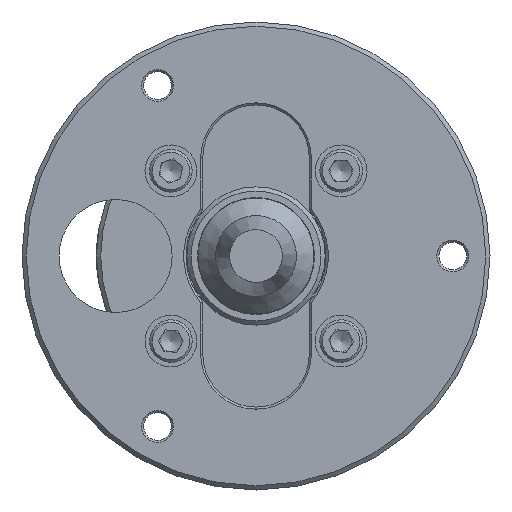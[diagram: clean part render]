
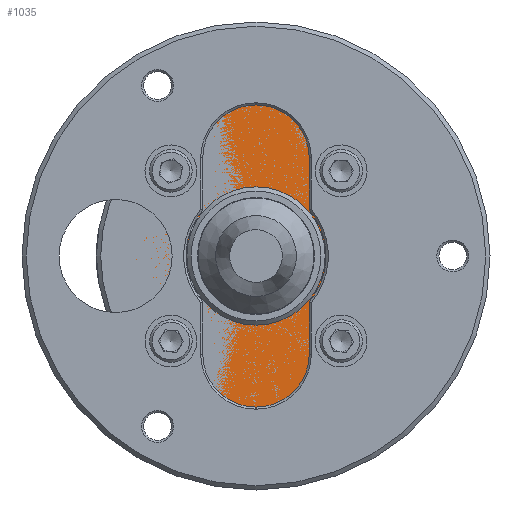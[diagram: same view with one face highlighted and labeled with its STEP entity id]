
A CAD part, front view. The second image highlights one B-rep face of the part: STEP entity #1035.
In plain terms, the highlighted planar face has unit normal (0, -1, 0).
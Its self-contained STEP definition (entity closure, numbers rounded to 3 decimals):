
#1 = CIRCLE ( 'NONE', #4469, 5. ) ;
#177 = EDGE_LOOP ( 'NONE', ( #3818 ) ) ;
#414 = EDGE_CURVE ( 'NONE', #4598, #4598, #3952, .T. ) ;
#735 = FACE_OUTER_BOUND ( 'NONE', #177, .T. ) ;
#811 = CARTESIAN_POINT ( 'NONE',  ( 15., -113., 20. ) ) ;
#1035 = ADVANCED_FACE ( 'NONE', ( #4105, #5565, #2426, #5762, #735, #3896 ), #2520, .F. ) ;
#1235 = AXIS2_PLACEMENT_3D ( 'NONE', #6175, #2407, #6797 ) ;
#1252 = CARTESIAN_POINT ( 'NONE',  ( -25., -113., 20. ) ) ;
#1262 = ORIENTED_EDGE ( 'NONE', *, *, #6755, .T. ) ;
#1718 = CARTESIAN_POINT ( 'NONE',  ( -20., -113., 20. ) ) ;
#1900 = DIRECTION ( 'NONE',  ( 0., 1., 0. ) ) ;
#2122 = AXIS2_PLACEMENT_3D ( 'NONE', #7447, #3671, #8076 ) ;
#2357 = DIRECTION ( 'NONE',  ( -1., 0., 0. ) ) ;
#2407 = DIRECTION ( 'NONE',  ( 0., 1., 0. ) ) ;
#2423 = ORIENTED_EDGE ( 'NONE', *, *, #414, .T. ) ;
#2426 = FACE_BOUND ( 'NONE', #7569, .T. ) ;
#2520 = PLANE ( 'NONE',  #2790 ) ;
#2681 = DIRECTION ( 'NONE',  ( 0., 1., 0. ) ) ;
#2714 = VERTEX_POINT ( 'NONE', #811 ) ;
#2778 = EDGE_LOOP ( 'NONE', ( #1262 ) ) ;
#2790 = AXIS2_PLACEMENT_3D ( 'NONE', #5669, #1900, #6307 ) ;
#2922 = CARTESIAN_POINT ( 'NONE',  ( 0., -113., 0. ) ) ;
#2983 = AXIS2_PLACEMENT_3D ( 'NONE', #2922, #7319, #3546 ) ;
#3230 = CARTESIAN_POINT ( 'NONE',  ( 20., -113., -20. ) ) ;
#3546 = DIRECTION ( 'NONE',  ( -1., 0., 0. ) ) ;
#3563 = EDGE_CURVE ( 'NONE', #7632, #7632, #7227, .T. ) ;
#3671 = DIRECTION ( 'NONE',  ( 0., 1., 0. ) ) ;
#3818 = ORIENTED_EDGE ( 'NONE', *, *, #3563, .T. ) ;
#3828 = EDGE_LOOP ( 'NONE', ( #2423 ) ) ;
#3863 = DIRECTION ( 'NONE',  ( -1., 0., 0. ) ) ;
#3870 = CARTESIAN_POINT ( 'NONE',  ( -36.5, -113., 0. ) ) ;
#3896 = FACE_BOUND ( 'NONE', #5484, .T. ) ;
#3952 = CIRCLE ( 'NONE', #5152, 5. ) ;
#3981 = CARTESIAN_POINT ( 'NONE',  ( -16.25, -113., 0. ) ) ;
#4105 = FACE_BOUND ( 'NONE', #3828, .T. ) ;
#4222 = ORIENTED_EDGE ( 'NONE', *, *, #7603, .T. ) ;
#4231 = ORIENTED_EDGE ( 'NONE', *, *, #7287, .T. ) ;
#4469 = AXIS2_PLACEMENT_3D ( 'NONE', #3230, #7629, #3863 ) ;
#4598 = VERTEX_POINT ( 'NONE', #1252 ) ;
#4622 = CIRCLE ( 'NONE', #6144, 5. ) ;
#4623 = CARTESIAN_POINT ( 'NONE',  ( 15., -113., -20. ) ) ;
#4761 = VERTEX_POINT ( 'NONE', #4623 ) ;
#5137 = ORIENTED_EDGE ( 'NONE', *, *, #7441, .T. ) ;
#5152 = AXIS2_PLACEMENT_3D ( 'NONE', #1718, #6128, #2357 ) ;
#5298 = EDGE_LOOP ( 'NONE', ( #5137 ) ) ;
#5484 = EDGE_LOOP ( 'NONE', ( #4231 ) ) ;
#5565 = FACE_BOUND ( 'NONE', #2778, .T. ) ;
#5669 = CARTESIAN_POINT ( 'NONE',  ( 0., -113., -16.25 ) ) ;
#5762 = FACE_BOUND ( 'NONE', #5298, .T. ) ;
#5872 = CARTESIAN_POINT ( 'NONE',  ( -25., -113., -20. ) ) ;
#6128 = DIRECTION ( 'NONE',  ( 0., 1., 0. ) ) ;
#6144 = AXIS2_PLACEMENT_3D ( 'NONE', #6437, #2681, #7081 ) ;
#6175 = CARTESIAN_POINT ( 'NONE',  ( 0., -113., 0. ) ) ;
#6224 = VERTEX_POINT ( 'NONE', #5872 ) ;
#6289 = CIRCLE ( 'NONE', #1235, 16.25 ) ;
#6307 = DIRECTION ( 'NONE',  ( -1., 0., 0. ) ) ;
#6437 = CARTESIAN_POINT ( 'NONE',  ( -20., -113., -20. ) ) ;
#6755 = EDGE_CURVE ( 'NONE', #2714, #2714, #7408, .T. ) ;
#6797 = DIRECTION ( 'NONE',  ( -1., 0., 0. ) ) ;
#7081 = DIRECTION ( 'NONE',  ( -1., 0., 0. ) ) ;
#7227 = CIRCLE ( 'NONE', #2983, 36.5 ) ;
#7287 = EDGE_CURVE ( 'NONE', #8093, #8093, #6289, .T. ) ;
#7319 = DIRECTION ( 'NONE',  ( 0., -1., 0. ) ) ;
#7408 = CIRCLE ( 'NONE', #2122, 5. ) ;
#7441 = EDGE_CURVE ( 'NONE', #4761, #4761, #1, .T. ) ;
#7447 = CARTESIAN_POINT ( 'NONE',  ( 20., -113., 20. ) ) ;
#7569 = EDGE_LOOP ( 'NONE', ( #4222 ) ) ;
#7603 = EDGE_CURVE ( 'NONE', #6224, #6224, #4622, .T. ) ;
#7629 = DIRECTION ( 'NONE',  ( 0., 1., 0. ) ) ;
#7632 = VERTEX_POINT ( 'NONE', #3870 ) ;
#8076 = DIRECTION ( 'NONE',  ( -1., 0., 0. ) ) ;
#8093 = VERTEX_POINT ( 'NONE', #3981 ) ;
